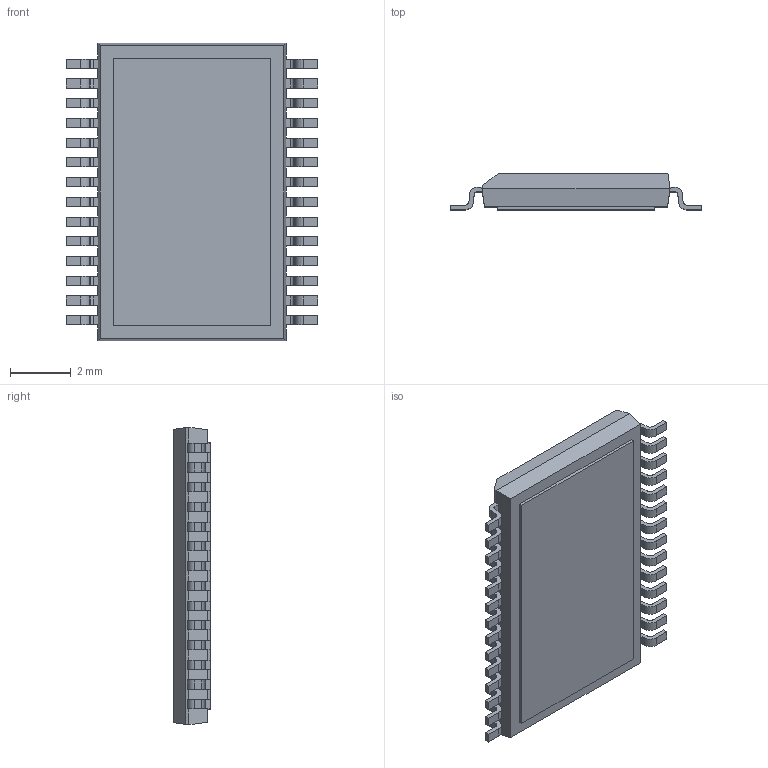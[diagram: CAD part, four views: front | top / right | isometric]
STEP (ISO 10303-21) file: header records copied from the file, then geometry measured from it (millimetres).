
FILE_DESCRIPTION (( 'STEP AP214' ), '1' );
FILE_NAME ('TSOP65P810X120-28TP_MO-153.DBT.STEP', '2014-10-29T08:20:16', ( 'Tester2' ), ( '' ), 'SwSTEP 2.0', 'SolidWorks 2012', '' );
FILE_SCHEMA (( 'AUTOMOTIVE_DESIGN' ));
Length unit declared in the file: millimetre
Products named in the file (1): TSOP65P810X120-28TP_MO-153.DBT
Bounding box: 8.3 x 1.2 x 9.8 mm (x, y, z)
Volume: 71 mm3; surface area: 189.5 mm2
Topology: 1 solids, 1 shells, 383 faces, 1133 edges, 754 vertices
Faces by surface type: plane 269, cylinder 114
Entity records: 16869 total; most frequent: CARTESIAN_POINT 2271, ORIENTED_EDGE 2266, DIRECTION 2129, EDGE_CURVE 1133, LINE 905, VECTOR 905, VERTEX_POINT 754, AXIS2_PLACEMENT_3D 612
